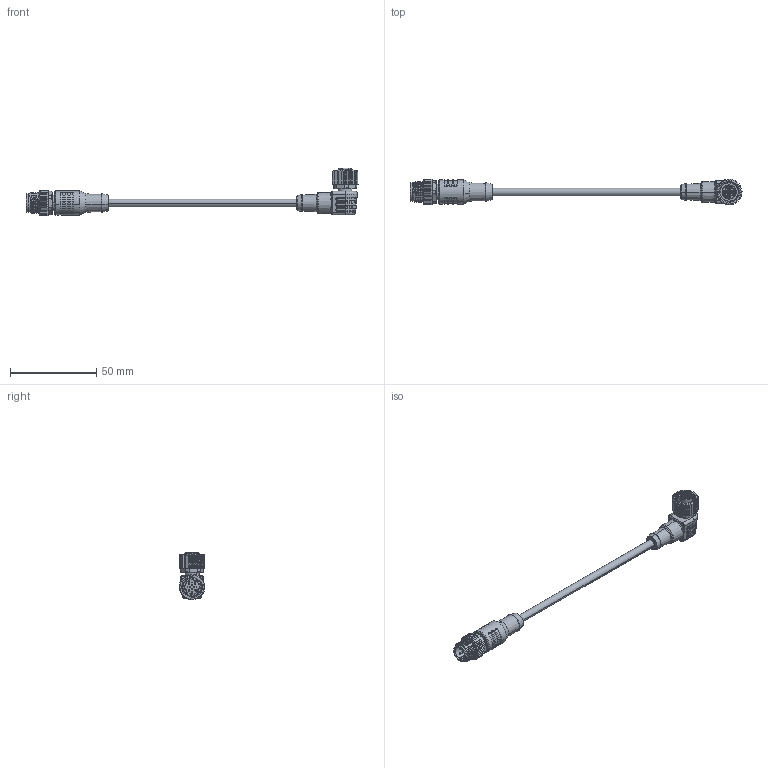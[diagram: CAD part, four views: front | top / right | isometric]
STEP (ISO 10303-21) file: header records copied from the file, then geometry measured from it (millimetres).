
FILE_DESCRIPTION (( 'STEP AP203' ), '1' );
FILE_NAME ('64D221-XXX.STEP', '2024-12-06T09:16:08', ( 'L' ), ( '' ), 'SwSTEP 2.0', 'SolidWorks 2019', '' );
FILE_SCHEMA (( 'CONFIG_CONTROL_DESIGN' ));
Products named in the file (1): 64D221-XXX
Bounding box: 192.67 x 15 x 27.8 mm (x, y, z)
Volume: 12172.2 mm3; surface area: 9038 mm2
Topology: 1 solids, 1 shells, 1480 faces, 4158 edges, 2734 vertices
Faces by surface type: plane 672, cylinder 397, bspline 192, cone 136, torus 83
Entity records: 77385 total; most frequent: CARTESIAN_POINT 42903, ORIENTED_EDGE 8314, DIRECTION 5543, EDGE_CURVE 4157, VERTEX_POINT 2734, AXIS2_PLACEMENT_3D 1980, B_SPLINE_CURVE_WITH_KNOTS 1810, VECTOR 1583
